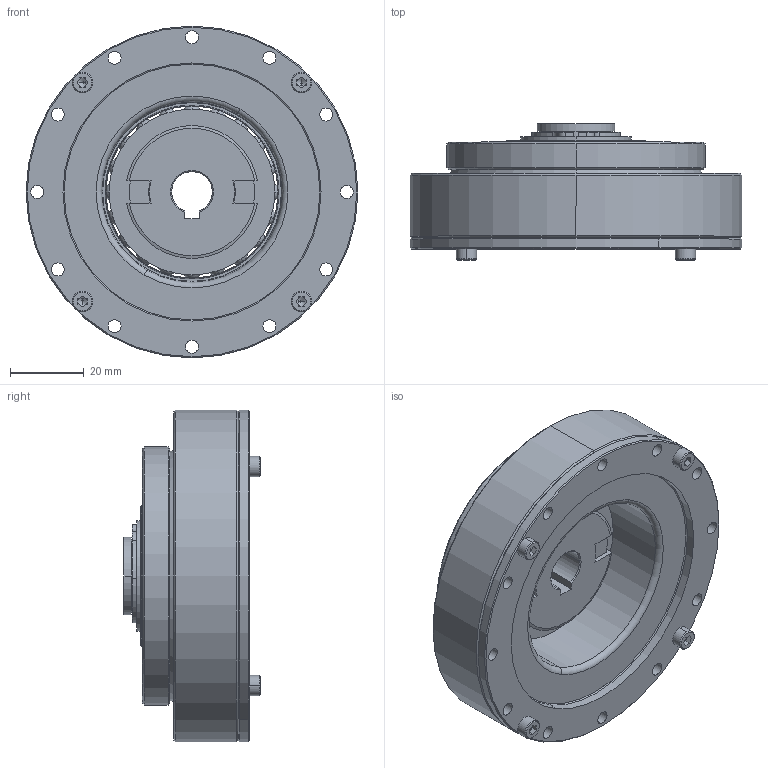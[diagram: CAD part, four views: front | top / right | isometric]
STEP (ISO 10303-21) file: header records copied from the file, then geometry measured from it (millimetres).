
FILE_DESCRIPTION (( 'STEP AP203' ), '1' );
FILE_NAME ('BHS-20-XXX-U-¢ò.STEP', '2019-01-15T03:54:37', ( 'User' ), ( 'China' ), 'SwSTEP 2.0', 'SolidWorks 2015', '' );
FILE_SCHEMA (( 'CONFIG_CONTROL_DESIGN' ));
Length unit declared in the file: millimetre
Products named in the file (1): BHS-20-XXX-U-ｊ
Bounding box: 90 x 36.99 x 90 mm (x, y, z)
Surface area: 43827.6 mm2 (no closed solid volume)
Topology: 0 solids, 25 shells, 379 faces, 1318 edges, 878 vertices
Faces by surface type: cylinder 147, plane 98, cone 68, sphere 40, torus 24, bspline 2
Entity records: 14045 total; most frequent: CARTESIAN_POINT 3150, DIRECTION 2407, ORIENTED_EDGE 2003, EDGE_CURVE 1202, AXIS2_PLACEMENT_3D 967, VERTEX_POINT 818, CIRCLE 589, EDGE_LOOP 485
